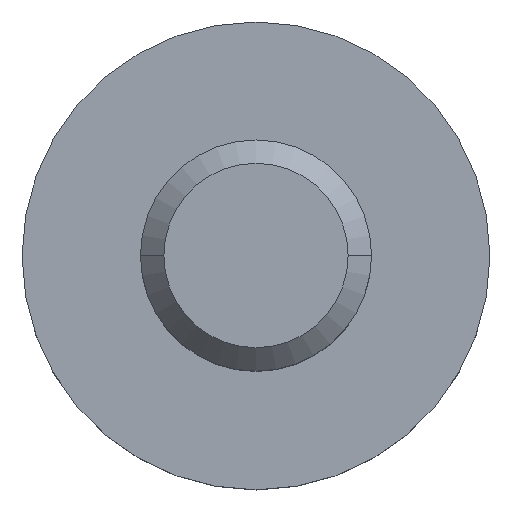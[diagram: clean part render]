
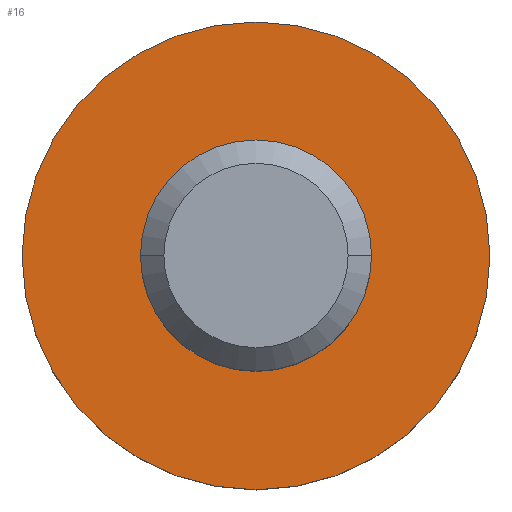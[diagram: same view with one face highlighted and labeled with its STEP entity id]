
A CAD part, top view. The second image highlights one B-rep face of the part: STEP entity #16.
In plain terms, the highlighted planar face has unit normal (0, 0, 1).
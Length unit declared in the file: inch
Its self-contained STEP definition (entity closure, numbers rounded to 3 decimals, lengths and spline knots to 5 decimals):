
#14=FACE_BOUND('',#35,.T.);
#16=ADVANCED_FACE('',(#25,#14),#129,.T.);
#25=FACE_OUTER_BOUND('',#34,.T.);
#34=EDGE_LOOP('',(#47,#48));
#35=EDGE_LOOP('',(#49,#50));
#47=ORIENTED_EDGE('',*,*,#84,.F.);
#48=ORIENTED_EDGE('',*,*,#75,.F.);
#49=ORIENTED_EDGE('',*,*,#80,.T.);
#50=ORIENTED_EDGE('',*,*,#88,.T.);
#75=EDGE_CURVE('',#117,#122,#97,.T.);
#80=EDGE_CURVE('',#121,#125,#100,.T.);
#84=EDGE_CURVE('',#122,#117,#102,.T.);
#88=EDGE_CURVE('',#125,#121,#105,.T.);
#97=TRIMMED_CURVE($,#107,(#315),(#316),.T.,.CARTESIAN.);
#100=TRIMMED_CURVE($,#110,(#328),(#329),.T.,.CARTESIAN.);
#102=TRIMMED_CURVE($,#112,(#338),(#339),.T.,.CARTESIAN.);
#105=TRIMMED_CURVE($,#115,(#349),(#350),.T.,.CARTESIAN.);
#107=CIRCLE('',#234,0.5);
#110=CIRCLE('',#237,0.247);
#112=CIRCLE('',#239,0.5);
#115=CIRCLE('',#242,0.247);
#117=VERTEX_POINT('',#304);
#121=VERTEX_POINT('',#308);
#122=VERTEX_POINT('',#309);
#125=VERTEX_POINT('',#312);
#129=PLANE('',#228);
#228=AXIS2_PLACEMENT_3D('',#278,#248,$);
#234=AXIS2_PLACEMENT_3D($,#314,#254,#255);
#237=AXIS2_PLACEMENT_3D($,#327,#260,#261);
#239=AXIS2_PLACEMENT_3D($,#337,#264,#265);
#242=AXIS2_PLACEMENT_3D($,#348,#270,#271);
#248=DIRECTION('',(0.,0.,1.));
#254=DIRECTION('',(0.,0.,-1.));
#255=DIRECTION('',(1.,0.,0.));
#260=DIRECTION('',(0.,0.,-1.));
#261=DIRECTION('',(1.,0.,0.));
#264=DIRECTION('',(0.,0.,-1.));
#265=DIRECTION('',(-1.,0.,0.));
#270=DIRECTION('',(0.,0.,-1.));
#271=DIRECTION('',(-1.,0.,0.));
#278=CARTESIAN_POINT('',(-14.03394,30.81824,-1.00456));
#304=CARTESIAN_POINT('',(-12.90894,30.19324,-1.00456));
#308=CARTESIAN_POINT('',(-13.16194,30.19324,-1.00456));
#309=CARTESIAN_POINT('',(-13.90894,30.19324,-1.00456));
#312=CARTESIAN_POINT('',(-13.65594,30.19324,-1.00456));
#314=CARTESIAN_POINT('',(-13.40894,30.19324,-1.00456));
#315=CARTESIAN_POINT('',(-12.90894,30.19324,-1.00456));
#316=CARTESIAN_POINT('',(-13.90894,30.19324,-1.00456));
#327=CARTESIAN_POINT('',(-13.40894,30.19324,-1.00456));
#328=CARTESIAN_POINT('',(-13.16194,30.19324,-1.00456));
#329=CARTESIAN_POINT('',(-13.65594,30.19324,-1.00456));
#337=CARTESIAN_POINT('',(-13.40894,30.19324,-1.00456));
#338=CARTESIAN_POINT('',(-13.90894,30.19324,-1.00456));
#339=CARTESIAN_POINT('',(-12.90894,30.19324,-1.00456));
#348=CARTESIAN_POINT('',(-13.40894,30.19324,-1.00456));
#349=CARTESIAN_POINT('',(-13.65594,30.19324,-1.00456));
#350=CARTESIAN_POINT('',(-13.16194,30.19324,-1.00456));
